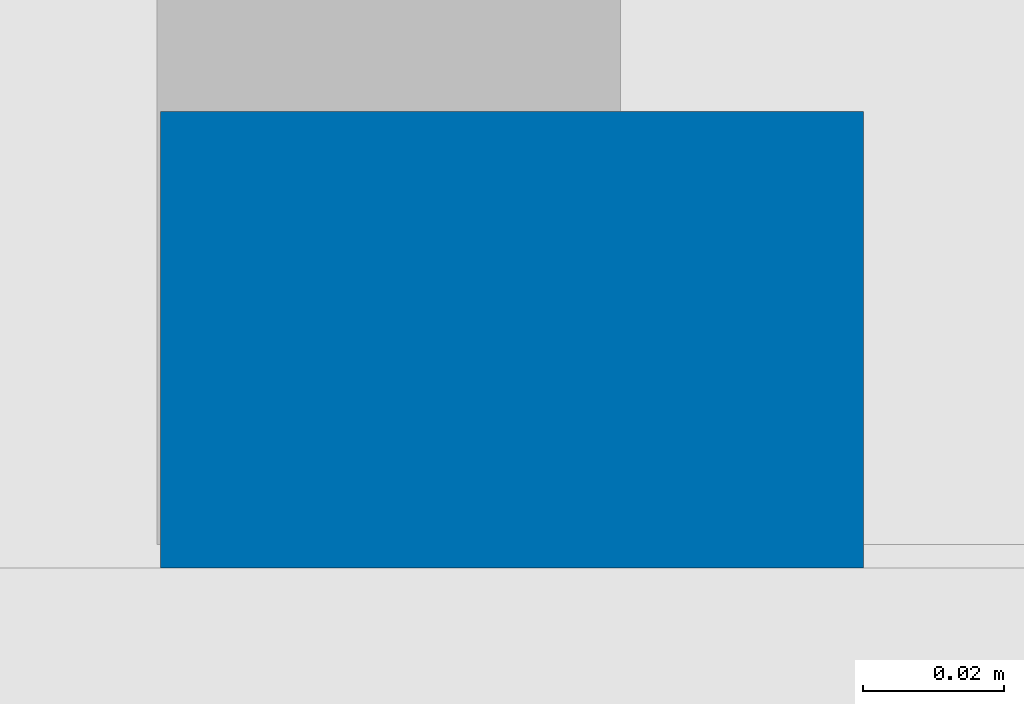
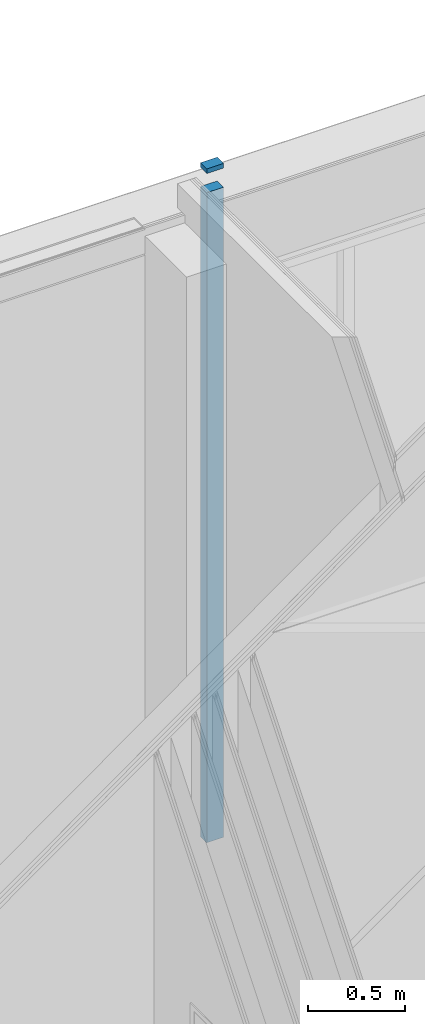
# One storey, part 28 of 94: 1 wall.
"""IFC2X3 building model written with IfcOpenShell, lengths in millimetres."""

from ifc_helpers import new_model, entity, si_unit, converted_unit, derived_unit, money_unit, direction, frame, origin_with_axes, place, context, subcontext, project, spatial, faceted_brep, material, type_object, element, save


model = new_model("IFC2X3")

# Units and contexts
model_context = context("Model", 3, precision=0.01, world=origin_with_axes(), true_north=direction((0.0, 1.0)))
body_context = subcontext(model_context, "Body", "Model", "MODEL_VIEW")
ifc_project = project(units=[si_unit("LENGTHUNIT", "METRE", prefix="MILLI"), si_unit("AREAUNIT", "SQUARE_METRE"), si_unit("VOLUMEUNIT", "CUBIC_METRE"), converted_unit("PLANEANGLEUNIT", "DEGREE", entity("IfcPlaneAngleMeasure", 0.0174532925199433), si_unit("PLANEANGLEUNIT", "RADIAN"), dimensions=[0, 0, 0, 0, 0, 0, 0]), money_unit("EUR"), converted_unit("TIMEUNIT", "Year", entity("IfcTimeMeasure", 31557600.0), si_unit("TIMEUNIT", "SECOND"), dimensions=[0, 0, 1, 0, 0, 0, 0]), si_unit("MASSUNIT", "GRAM", prefix="KILO"), si_unit("THERMODYNAMICTEMPERATUREUNIT", "DEGREE_CELSIUS"), si_unit("LUMINOUSINTENSITYUNIT", "LUMEN"), si_unit("ENERGYUNIT", "JOULE", prefix="MEGA"), derived_unit("THERMALCONDUCTANCEUNIT", [(si_unit("POWERUNIT", "WATT"), 1), (si_unit("LENGTHUNIT", "METRE"), -1), (si_unit("THERMODYNAMICTEMPERATUREUNIT", "KELVIN"), -1)]), derived_unit("SPECIFICHEATCAPACITYUNIT", [(si_unit("ENERGYUNIT", "JOULE"), 1), (si_unit("MASSUNIT", "GRAM", prefix="KILO"), -1), (si_unit("THERMODYNAMICTEMPERATUREUNIT", "KELVIN"), -1)]), derived_unit("MASSDENSITYUNIT", [(si_unit("MASSUNIT", "GRAM", prefix="KILO"), 1), (si_unit("VOLUMEUNIT", "CUBIC_METRE"), -1)])], contexts=[model_context])

# Site, building, storey
site_placement = place(None, origin_with_axes())
site = spatial("IfcSite", under=ifc_project, at=site_placement, Name="<site naam>", CompositionType="ELEMENT")
building_placement = place(site_placement, origin_with_axes())
building = spatial("IfcBuilding", under=site, at=building_placement, Name="<Naam gebouw>", CompositionType="ELEMENT")
storey_placement = place(building_placement, frame((0.0, 0.0, 4250.0), z_axis=(0.0, 0.0, 1.0), x_axis=(1.0, 0.0, 0.0)))
storey = spatial("IfcBuildingStorey", under=building, at=storey_placement, Name="01 1e verdieping", CompositionType="ELEMENT", Elevation=4250.0)

# Wall
ifc_material = material(Name="ALG - BINNENWAND")
wall_type = type_object("IfcWallType", Name="ALG - BINNENWAND 100", PredefinedType="NOTDEFINED")
wall_placement = place(storey_placement, frame((16310.52948466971, 20059.60127102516, 0.0), z_axis=(0.0, 0.0, 1.0), x_axis=(0.0, -1.0, 0.0)))
element("IfcWall", 1, at=wall_placement, inside=storey, type_object=wall_type, material=ifc_material, Name="22_Binnenwand_ALG", context=body_context, shape_type="Brep", body=[
    faceted_brep([(0.0, -50.00000000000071, 0.0), (0.0, -50.00000000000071, 4100.000000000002), (0.0, 50.00000000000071, 4100.000000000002), (0.0, 50.00000000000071, 0.0), (65.00000000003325, -50.00000000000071, 0.0), (65.00000000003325, -50.00000000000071, 4100.000000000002), (65.00000000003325, 50.00000000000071, 4100.000000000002), (65.00000000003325, 50.00000000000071, 0.0)], [[[0, 1, 2, 3]], [[4, 5, 1, 0]], [[5, 6, 2, 1]], [[3, 2, 6, 7]], [[0, 3, 7, 4]], [[7, 6, 5, 4]]]),
    faceted_brep([(65.00000000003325, 50.00000000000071, 4250.0), (65.00000000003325, 50.00000000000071, 4220.000000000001), (0.0, 50.00000000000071, 4220.000000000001), (0.0, 50.00000000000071, 4250.0), (65.00000000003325, -50.00000000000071, 4250.0), (65.00000000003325, -50.00000000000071, 4220.000000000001), (0.0, -50.00000000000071, 4220.000000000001), (0.0, -50.00000000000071, 4250.0)], [[[0, 1, 2, 3]], [[4, 5, 1, 0]], [[5, 6, 2, 1]], [[3, 2, 6, 7]], [[3, 7, 4, 0]], [[7, 6, 5, 4]]]),
])

save(model, "model.ifc")
